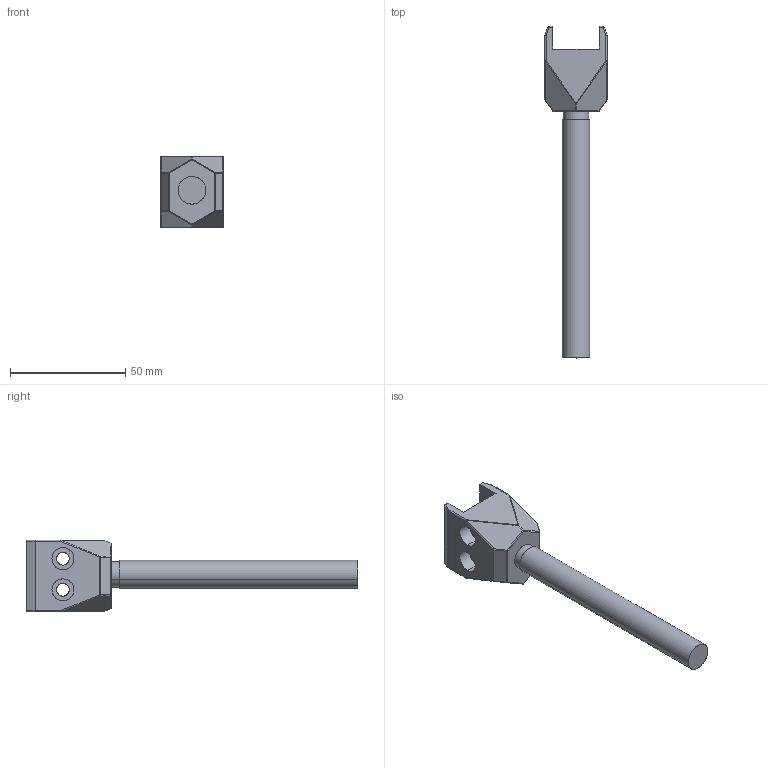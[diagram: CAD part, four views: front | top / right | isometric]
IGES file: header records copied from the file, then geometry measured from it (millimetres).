
Start section: SolidWorks IGES file using analytic representation for surfaces
Global section: file name: C:\Documents and Settings\ARGE\Desktop\yeni katalog tolgay düzenli\B kataloðu\dar balik sirtli profil tekli mengene (milli)\export\210 IIB E04.IGS; native system: SolidWorks 2006 by SolidWorks Corporation; preprocessor: SolidWorks 2006 by SolidWorks Corporation; author: ARGE2; date: 060911.162657; units: millimetre
Bounding box: 27 x 144 x 31 mm (x, y, z)
Surface area: 11987.8 mm2 (no closed solid volume)
Topology: 0 solids, 0 shells, 127 faces, 1178 edges, 1164 vertices
Faces by surface type: revolution 80, bspline 47
